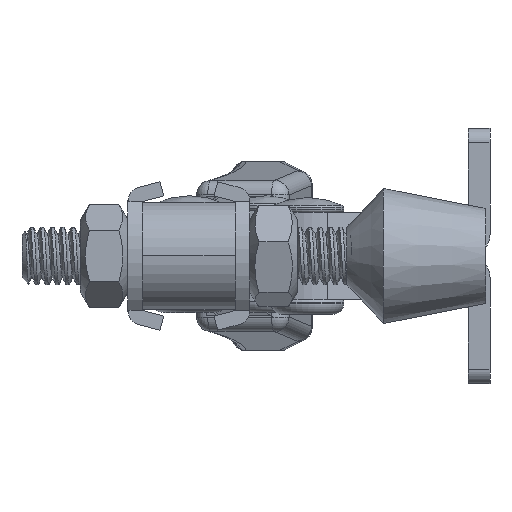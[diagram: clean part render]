
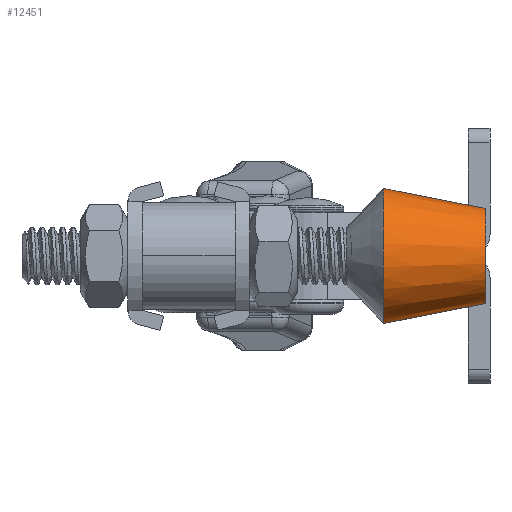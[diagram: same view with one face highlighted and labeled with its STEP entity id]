
A CAD part, left-side view. The second image highlights one B-rep face of the part: STEP entity #12451.
In plain terms, the highlighted conical face has half-angle 11.113 degrees and reference radius 9.25 mm.
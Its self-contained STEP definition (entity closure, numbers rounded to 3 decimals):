
#148=CONICAL_SURFACE('',#13224,9.25,0.194);
#265=CIRCLE('',#13222,6.5);
#266=CIRCLE('',#13223,6.5);
#267=CIRCLE('',#13225,9.25);
#268=CIRCLE('',#13226,9.25);
#1446=FACE_OUTER_BOUND('',#2154,.T.);
#2154=EDGE_LOOP('',(#10373,#10374,#10375,#10376,#10377,#10378));
#3128=LINE('',#29382,#4175);
#4175=VECTOR('',#15071,9.25);
#5792=VERTEX_POINT('',#29373);
#5793=VERTEX_POINT('',#29374);
#5794=VERTEX_POINT('',#29378);
#5795=VERTEX_POINT('',#29379);
#7413=EDGE_CURVE('',#5792,#5793,#265,.T.);
#7414=EDGE_CURVE('',#5793,#5792,#266,.T.);
#7415=EDGE_CURVE('',#5794,#5795,#267,.T.);
#7416=EDGE_CURVE('',#5795,#5794,#268,.T.);
#7417=EDGE_CURVE('',#5795,#5793,#3128,.T.);
#10373=ORIENTED_EDGE('',*,*,#7415,.F.);
#10374=ORIENTED_EDGE('',*,*,#7416,.F.);
#10375=ORIENTED_EDGE('',*,*,#7417,.T.);
#10376=ORIENTED_EDGE('',*,*,#7414,.T.);
#10377=ORIENTED_EDGE('',*,*,#7413,.T.);
#10378=ORIENTED_EDGE('',*,*,#7417,.F.);
#12451=ADVANCED_FACE('',(#1446),#148,.T.);
#13222=AXIS2_PLACEMENT_3D('',#29375,#15061,#15062);
#13223=AXIS2_PLACEMENT_3D('',#29376,#15063,#15064);
#13224=AXIS2_PLACEMENT_3D('',#29377,#15065,#15066);
#13225=AXIS2_PLACEMENT_3D('',#29380,#15067,#15068);
#13226=AXIS2_PLACEMENT_3D('',#29381,#15069,#15070);
#15061=DIRECTION('center_axis',(0.,0.,1.));
#15062=DIRECTION('ref_axis',(0.,-1.,0.));
#15063=DIRECTION('center_axis',(0.,0.,1.));
#15064=DIRECTION('ref_axis',(0.,-1.,0.));
#15065=DIRECTION('center_axis',(0.,0.,1.));
#15066=DIRECTION('ref_axis',(0.,-1.,0.));
#15067=DIRECTION('center_axis',(0.,0.,1.));
#15068=DIRECTION('ref_axis',(0.,-1.,0.));
#15069=DIRECTION('center_axis',(0.,0.,1.));
#15070=DIRECTION('ref_axis',(0.,-1.,0.));
#15071=DIRECTION('',(0.,-0.193,-0.981));
#29373=CARTESIAN_POINT('',(0.,-6.5,-8.5));
#29374=CARTESIAN_POINT('',(0.,6.5,-8.5));
#29375=CARTESIAN_POINT('Origin',(0.,0.,-8.5));
#29376=CARTESIAN_POINT('Origin',(0.,0.,-8.5));
#29377=CARTESIAN_POINT('Origin',(0.,0.,5.5));
#29378=CARTESIAN_POINT('',(0.,-9.25,5.5));
#29379=CARTESIAN_POINT('',(0.,9.25,5.5));
#29380=CARTESIAN_POINT('Origin',(0.,0.,5.5));
#29381=CARTESIAN_POINT('Origin',(0.,0.,5.5));
#29382=CARTESIAN_POINT('',(0.,9.25,5.5));
